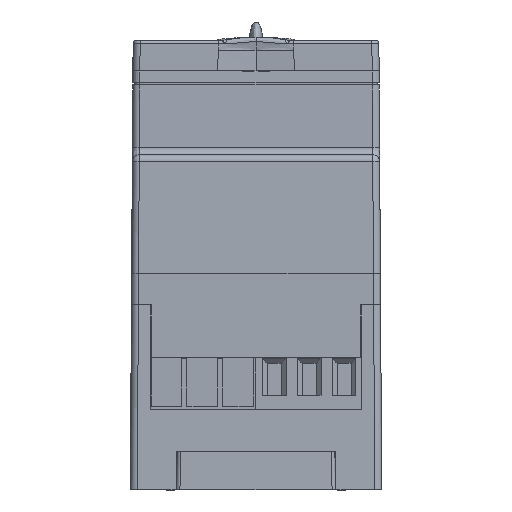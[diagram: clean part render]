
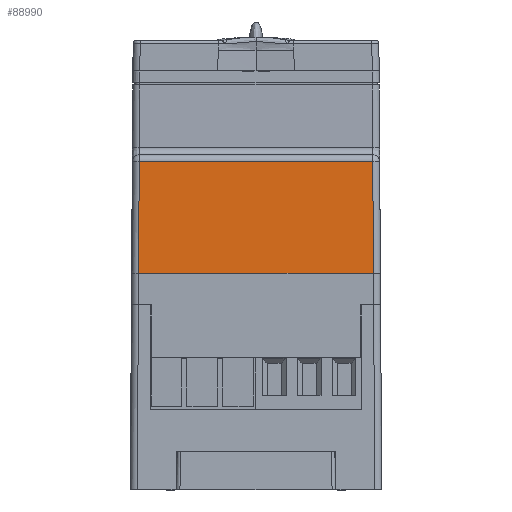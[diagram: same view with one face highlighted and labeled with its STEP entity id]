
A CAD part, front view. The second image highlights one B-rep face of the part: STEP entity #88990.
In plain terms, the highlighted planar face has unit normal (0, -1, 0.009).
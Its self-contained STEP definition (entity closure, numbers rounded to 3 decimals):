
#155 = CARTESIAN_POINT ( 'NONE',  ( 0., -31., -31.499 ) ) ;
#319 = VECTOR ( 'NONE', #62477, 1000. ) ;
#3606 = EDGE_CURVE ( 'NONE', #70650, #119980, #24371, .T. ) ;
#7017 = DIRECTION ( 'NONE',  ( 0., 0.009, 1. ) ) ;
#9017 = CARTESIAN_POINT ( 'NONE',  ( -16.779, -31., -31.5 ) ) ;
#9676 = EDGE_CURVE ( 'NONE', #31956, #38448, #75469, .T. ) ;
#15885 = VECTOR ( 'NONE', #118260, 1000. ) ;
#24371 = LINE ( 'NONE', #155, #76328 ) ;
#24693 = DIRECTION ( 'NONE',  ( 0.006, 0.009, 1. ) ) ;
#26929 = CARTESIAN_POINT ( 'NONE',  ( -16.718, -30.821, -10.986 ) ) ;
#28382 = VERTEX_POINT ( 'NONE', #26929 ) ;
#29770 = CARTESIAN_POINT ( 'NONE',  ( -15.13, -31.065, -38.901 ) ) ;
#30549 = ORIENTED_EDGE ( 'NONE', *, *, #36110, .F. ) ;
#31956 = VERTEX_POINT ( 'NONE', #122363 ) ;
#33615 = EDGE_CURVE ( 'NONE', #72304, #28382, #124388, .T. ) ;
#33916 = LINE ( 'NONE', #9017, #101091 ) ;
#34401 = CARTESIAN_POINT ( 'NONE',  ( -15.13, -30.821, -10.986 ) ) ;
#36065 = DIRECTION ( 'NONE',  ( 1., 0., 0. ) ) ;
#36110 = EDGE_CURVE ( 'NONE', #117382, #72304, #75553, .T. ) ;
#37260 = VERTEX_POINT ( 'NONE', #128430 ) ;
#38448 = VERTEX_POINT ( 'NONE', #62400 ) ;
#39316 = FACE_OUTER_BOUND ( 'NONE', #66144, .T. ) ;
#41716 = VECTOR ( 'NONE', #87189, 1000. ) ;
#43093 = ORIENTED_EDGE ( 'NONE', *, *, #75406, .T. ) ;
#44624 = LINE ( 'NONE', #34401, #125647 ) ;
#45876 = EDGE_CURVE ( 'NONE', #37260, #31956, #33916, .T. ) ;
#48182 = CARTESIAN_POINT ( 'NONE',  ( -14.039, -31., -31.5 ) ) ;
#62163 = ORIENTED_EDGE ( 'NONE', *, *, #45876, .T. ) ;
#62400 = CARTESIAN_POINT ( 'NONE',  ( 16.718, -30.821, -10.986 ) ) ;
#62477 = DIRECTION ( 'NONE',  ( 1., 0., 0. ) ) ;
#66144 = EDGE_LOOP ( 'NONE', ( #136899, #43093, #62163, #82908, #105488, #92845, #30549, #81886 ) ) ;
#70650 = VERTEX_POINT ( 'NONE', #48182 ) ;
#72090 = CARTESIAN_POINT ( 'NONE',  ( -15.13, -31., -31.5 ) ) ;
#72304 = VERTEX_POINT ( 'NONE', #103049 ) ;
#72753 = LINE ( 'NONE', #118217, #319 ) ;
#75406 = EDGE_CURVE ( 'NONE', #119980, #37260, #72753, .T. ) ;
#75469 = LINE ( 'NONE', #140758, #41716 ) ;
#75553 = LINE ( 'NONE', #100421, #143253 ) ;
#76328 = VECTOR ( 'NONE', #36065, 1000. ) ;
#78299 = CARTESIAN_POINT ( 'NONE',  ( 14.039, -31., -31.5 ) ) ;
#80371 = CARTESIAN_POINT ( 'NONE',  ( -16.887, -31.063, -38.705 ) ) ;
#81886 = ORIENTED_EDGE ( 'NONE', *, *, #123970, .F. ) ;
#82908 = ORIENTED_EDGE ( 'NONE', *, *, #9676, .T. ) ;
#82918 = VECTOR ( 'NONE', #24693, 1000. ) ;
#85459 = PLANE ( 'NONE',  #88977 ) ;
#87189 = DIRECTION ( 'NONE',  ( -0.006, 0.009, 1. ) ) ;
#88977 = AXIS2_PLACEMENT_3D ( 'NONE', #29770, #131642, #7017 ) ;
#88990 = ADVANCED_FACE ( 'NONE', ( #39316 ), #85459, .T. ) ;
#89365 = DIRECTION ( 'NONE',  ( -1., 0., 0. ) ) ;
#92845 = ORIENTED_EDGE ( 'NONE', *, *, #33615, .F. ) ;
#100421 = CARTESIAN_POINT ( 'NONE',  ( -15.13, -31., -31.5 ) ) ;
#100605 = DIRECTION ( 'NONE',  ( 1., 0., 0. ) ) ;
#101091 = VECTOR ( 'NONE', #100605, 1000. ) ;
#103049 = CARTESIAN_POINT ( 'NONE',  ( -16.843, -31., -31.5 ) ) ;
#105488 = ORIENTED_EDGE ( 'NONE', *, *, #122916, .T. ) ;
#117382 = VERTEX_POINT ( 'NONE', #131647 ) ;
#118217 = CARTESIAN_POINT ( 'NONE',  ( -16.779, -31., -31.5 ) ) ;
#118260 = DIRECTION ( 'NONE',  ( -1., 0., 0. ) ) ;
#119980 = VERTEX_POINT ( 'NONE', #78299 ) ;
#122363 = CARTESIAN_POINT ( 'NONE',  ( 16.843, -31., -31.5 ) ) ;
#122916 = EDGE_CURVE ( 'NONE', #38448, #28382, #44624, .T. ) ;
#123970 = EDGE_CURVE ( 'NONE', #70650, #117382, #129254, .T. ) ;
#124388 = LINE ( 'NONE', #80371, #82918 ) ;
#125647 = VECTOR ( 'NONE', #89365, 1000. ) ;
#128430 = CARTESIAN_POINT ( 'NONE',  ( 16.338, -31., -31.5 ) ) ;
#129254 = LINE ( 'NONE', #72090, #15885 ) ;
#131642 = DIRECTION ( 'NONE',  ( 0., -1., 0.009 ) ) ;
#131647 = CARTESIAN_POINT ( 'NONE',  ( -16.338, -31., -31.5 ) ) ;
#136899 = ORIENTED_EDGE ( 'NONE', *, *, #3606, .T. ) ;
#140758 = CARTESIAN_POINT ( 'NONE',  ( 16.887, -31.063, -38.705 ) ) ;
#143253 = VECTOR ( 'NONE', #145139, 1000. ) ;
#145139 = DIRECTION ( 'NONE',  ( -1., 0., 0. ) ) ;
